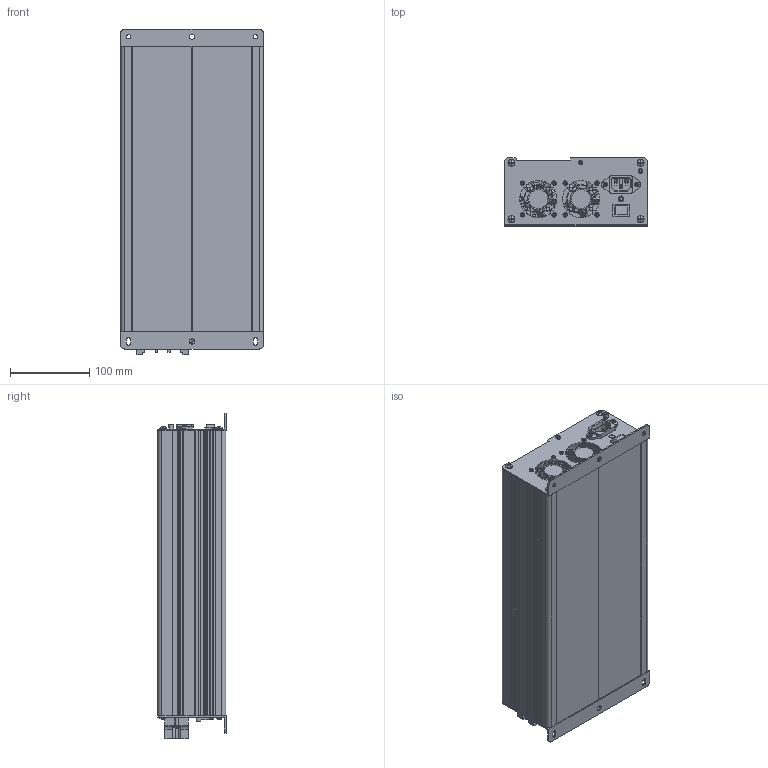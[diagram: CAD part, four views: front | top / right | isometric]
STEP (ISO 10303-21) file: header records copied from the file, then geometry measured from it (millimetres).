
FILE_DESCRIPTION(/* description */ ('','CAx-IF Rec.Pracs.---Representation and Presentation of Product Manufacturing Information (PMI)---4.0---2014-10-13'),/* implementation_level */ '2;1');
FILE_NAME(/* name */ 'G:\05_충전기_1.5kW RENEWAL\[고객용 도면]\3D_TC-1500W.stp',/* time_stamp */ '2022-12-09T10:18:48+09:00',/* author */ ('jjang'),/* organization */ (''),/* preprocessor_version */ 'ST-DEVELOPER v18.1',/* originating_system */ 'Autodesk Inventor 2021',/* authorisation */ '');
FILE_SCHEMA (('AP242_MANAGED_MODEL_BASED_3D_ENGINEERING_MIM_LF { 1 0 10303 442 1 1 4 }'));
Products named in the file (1): 20221209_2kW 충전기 NEW_Shrinkwrap_3
Bounding box: 180 x 86 x 411.3 mm (x, y, z)
Volume: 1251167.7 mm3; surface area: 742946.1 mm2
Topology: 8 solids, 26 shells, 3684 faces, 10204 edges, 6734 vertices
Faces by surface type: plane 2183, cylinder 1227, cone 116, torus 96, bspline 54, sphere 8
Full cylindrical faces by diameter (mm): 0.457 x1, 0.8 x4, 1.6 x2, 2 x2, 2.3 x2, 2.5 x2, 2.8 x6, 3 x4, 3.2 x6, 3.4 x2, 3.5 x4, 3.6 x4, 3.8 x6, 3.9 x1, 4 x10, 4.2 x6, 4.3 x8, 4.5 x6, 4.6 x2, 4.9 x4, 5 x14, 5.4 x4, 5.5 x5, 5.636 x6, 5.7 x12, 6 x7, 6.5 x2, 6.6 x2, 8.8 x8, 9.8 x1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
Entity records: 127031 total; most frequent: CARTESIAN_POINT 27557, ORIENTED_EDGE 20392, DIRECTION 20322, EDGE_CURVE 10196, AXIS2_PLACEMENT_3D 6953, VERTEX_POINT 6734, LINE 6416, VECTOR 6416
